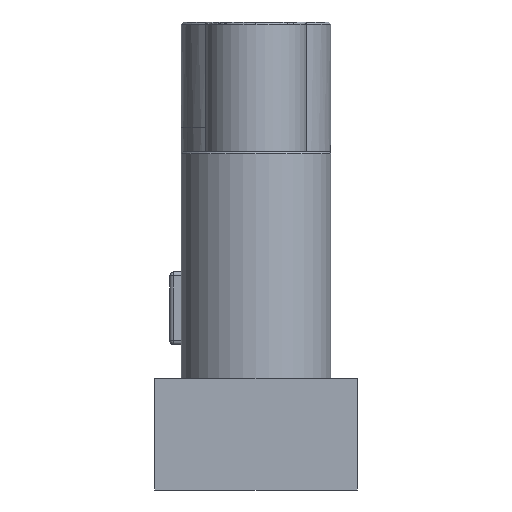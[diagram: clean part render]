
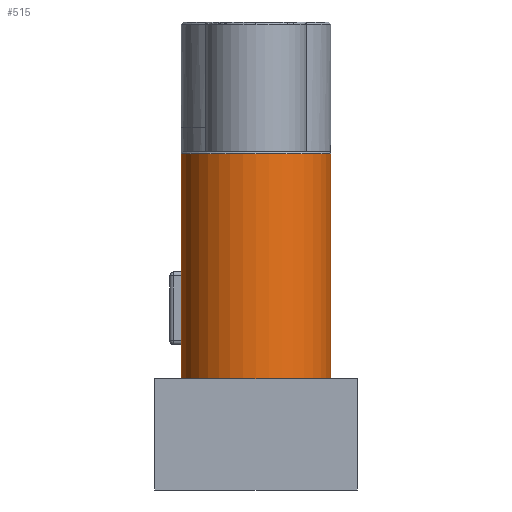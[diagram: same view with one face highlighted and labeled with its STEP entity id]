
A CAD part, left-side view. The second image highlights one B-rep face of the part: STEP entity #515.
In plain terms, the highlighted cylindrical face has radius 37 mm (diameter 74 mm), a partial arc.
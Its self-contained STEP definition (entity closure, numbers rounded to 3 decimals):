
#430=CARTESIAN_POINT('Vertex',(0.,37.,166.)) ;
#433=CARTESIAN_POINT('Axis2P3D Location',(0.,0.,166.)) ;
#437=CARTESIAN_POINT('Vertex',(0.,-37.,166.)) ;
#469=CARTESIAN_POINT('Axis2P3D Location',(0.,0.,98.89)) ;
#474=CARTESIAN_POINT('Line Origine',(0.,37.,79.89)) ;
#478=CARTESIAN_POINT('Vertex',(0.,37.,106.)) ;
#481=CARTESIAN_POINT('Line Origine',(0.,37.,79.89)) ;
#485=CARTESIAN_POINT('Vertex',(0.,37.,55.)) ;
#488=CARTESIAN_POINT('Axis2P3D Location',(0.,0.,55.)) ;
#492=CARTESIAN_POINT('Vertex',(0.,-37.,55.)) ;
#495=CARTESIAN_POINT('Line Origine',(0.,-37.,79.89)) ;
#499=CARTESIAN_POINT('Vertex',(0.,-37.,106.)) ;
#502=CARTESIAN_POINT('Line Origine',(0.,-37.,79.89)) ;
#434=DIRECTION('Axis2P3D Direction',(0.,0.,-1.)) ;
#470=DIRECTION('Axis2P3D Direction',(0.,0.,-1.)) ;
#471=DIRECTION('Axis2P3D XDirection',(0.,-1.,0.)) ;
#475=DIRECTION('Vector Direction',(0.,0.,-1.)) ;
#482=DIRECTION('Vector Direction',(0.,0.,-1.)) ;
#489=DIRECTION('Axis2P3D Direction',(0.,0.,-1.)) ;
#496=DIRECTION('Vector Direction',(0.,0.,-1.)) ;
#503=DIRECTION('Vector Direction',(0.,0.,-1.)) ;
#435=AXIS2_PLACEMENT_3D('Circle Axis2P3D',#433,#434,$) ;
#472=AXIS2_PLACEMENT_3D('Cylinder Axis2P3D',#469,#470,#471) ;
#490=AXIS2_PLACEMENT_3D('Circle Axis2P3D',#488,#489,$) ;
#508=ORIENTED_EDGE('',*,*,#480,.F.) ;
#509=ORIENTED_EDGE('',*,*,#487,.T.) ;
#510=ORIENTED_EDGE('',*,*,#494,.T.) ;
#511=ORIENTED_EDGE('',*,*,#501,.F.) ;
#512=ORIENTED_EDGE('',*,*,#506,.F.) ;
#513=ORIENTED_EDGE('',*,*,#439,.F.) ;
#476=VECTOR('Line Direction',#475,1.) ;
#483=VECTOR('Line Direction',#482,1.) ;
#497=VECTOR('Line Direction',#496,1.) ;
#504=VECTOR('Line Direction',#503,1.) ;
#515=ADVANCED_FACE('',(#514),#473,.T.) ;
#436=CIRCLE('generated circle',#435,37.) ;
#491=CIRCLE('generated circle',#490,37.) ;
#473=CYLINDRICAL_SURFACE('generated cylinder',#472,37.) ;
#439=EDGE_CURVE('',#431,#438,#436,.F.) ;
#480=EDGE_CURVE('',#479,#431,#477,.F.) ;
#487=EDGE_CURVE('',#479,#486,#484,.T.) ;
#494=EDGE_CURVE('',#486,#493,#491,.F.) ;
#501=EDGE_CURVE('',#500,#493,#498,.T.) ;
#506=EDGE_CURVE('',#438,#500,#505,.T.) ;
#507=EDGE_LOOP('',(#508,#509,#510,#511,#512,#513)) ;
#514=FACE_OUTER_BOUND('',#507,.T.) ;
#477=LINE('Line',#474,#476) ;
#484=LINE('Line',#481,#483) ;
#498=LINE('Line',#495,#497) ;
#505=LINE('Line',#502,#504) ;
#431=VERTEX_POINT('',#430) ;
#438=VERTEX_POINT('',#437) ;
#479=VERTEX_POINT('',#478) ;
#486=VERTEX_POINT('',#485) ;
#493=VERTEX_POINT('',#492) ;
#500=VERTEX_POINT('',#499) ;
